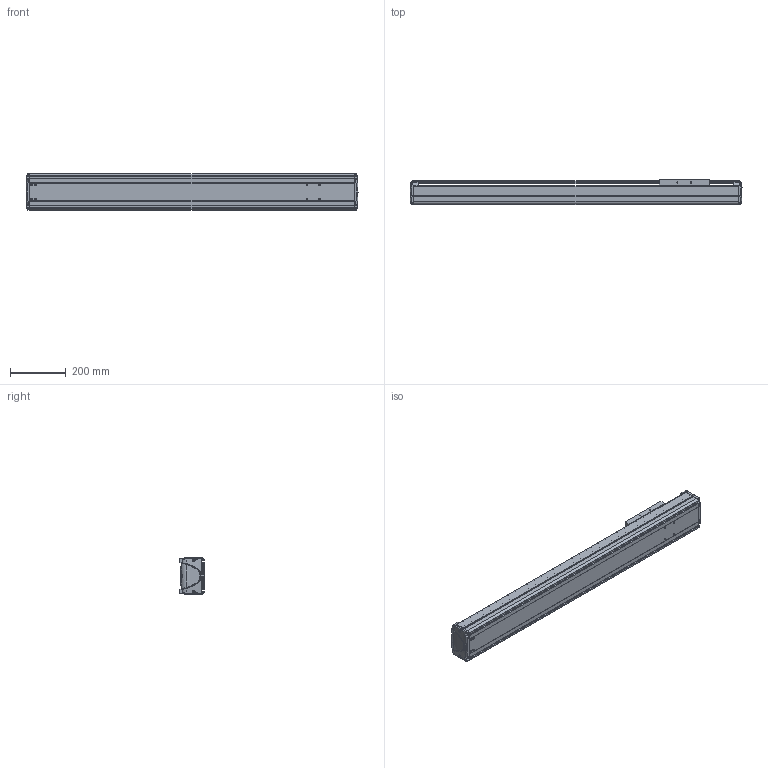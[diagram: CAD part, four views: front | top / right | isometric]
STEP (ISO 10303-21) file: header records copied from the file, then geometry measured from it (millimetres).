
FILE_DESCRIPTION((''),'2;1');
FILE_NAME('BE30E-ST-L_N-85_IGS_PRT','2017-06-17T',(' '),(''),'PRO/ENGINEER BY PARAMETRIC TECHNOLOGY CORPORATION, 2015030','PRO/ENGINEER BY PARAMETRIC TECHNOLOGY CORPORATION, 2015030','');
FILE_SCHEMA(('CONFIG_CONTROL_DESIGN'));
Length unit declared in the file: millimetre
Products named in the file (1): BE30E-ST-L_N-85_IGS_PRT
Bounding box: 1190 x 89.8 x 130 mm (x, y, z)
Volume: 3686772 mm3; surface area: 1445411.8 mm2
Topology: 3 solids, 90 shells, 1382 faces, 3728 edges, 2440 vertices
Faces by surface type: cylinder 635, plane 596, bspline 55, torus 42, cone 30, sphere 24
Entity records: 46503 total; most frequent: CARTESIAN_POINT 11632, DIRECTION 7196, ORIENTED_EDGE 7070, EDGE_CURVE 3708, AXIS2_PLACEMENT_3D 2610, VERTEX_POINT 2440, VECTOR 1976, LINE 1976
